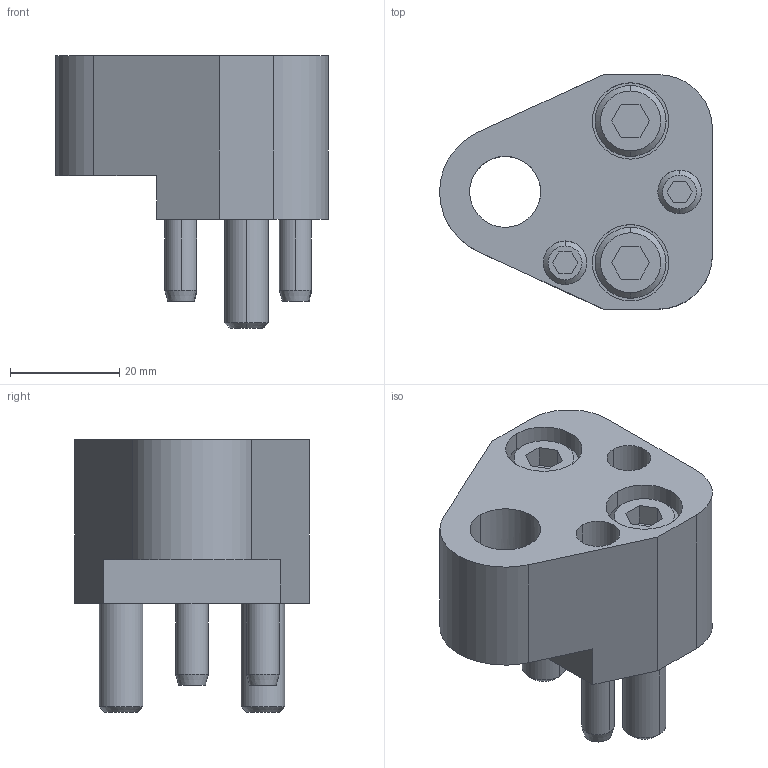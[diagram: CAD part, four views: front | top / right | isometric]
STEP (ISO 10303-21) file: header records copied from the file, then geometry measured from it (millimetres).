
FILE_DESCRIPTION(/* description */ (''),/* implementation_level */ '2;1');
FILE_NAME(/* name */ '3d_fpfr13_03781_r00.stp',/* time_stamp */ '2011-01-10T14:15:34+09:00',/* author */ ('MISUMI'),/* organization */ (''),/* preprocessor_version */ 'ST-DEVELOPER v11',/* originating_system */ 'UGS - NX 5.0',/* authorisation */ '');
FILE_SCHEMA (('CONFIG_CONTROL_DESIGN'));
Length unit declared in the file: millimetre
Products named in the file (1): 3d_fpfr13_03781_r00
Bounding box: 50 x 43 x 50 mm (x, y, z)
Volume: 43668.8 mm3; surface area: 16735.4 mm2
Topology: 7 solids, 7 shells, 134 faces, 298 edges, 191 vertices
Faces by surface type: plane 61, cylinder 47, cone 26
Entity records: 3858 total; most frequent: CARTESIAN_POINT 683, DIRECTION 682, ORIENTED_EDGE 596, EDGE_CURVE 298, AXIS2_PLACEMENT_3D 256, VERTEX_POINT 191, LINE 170, VECTOR 170
